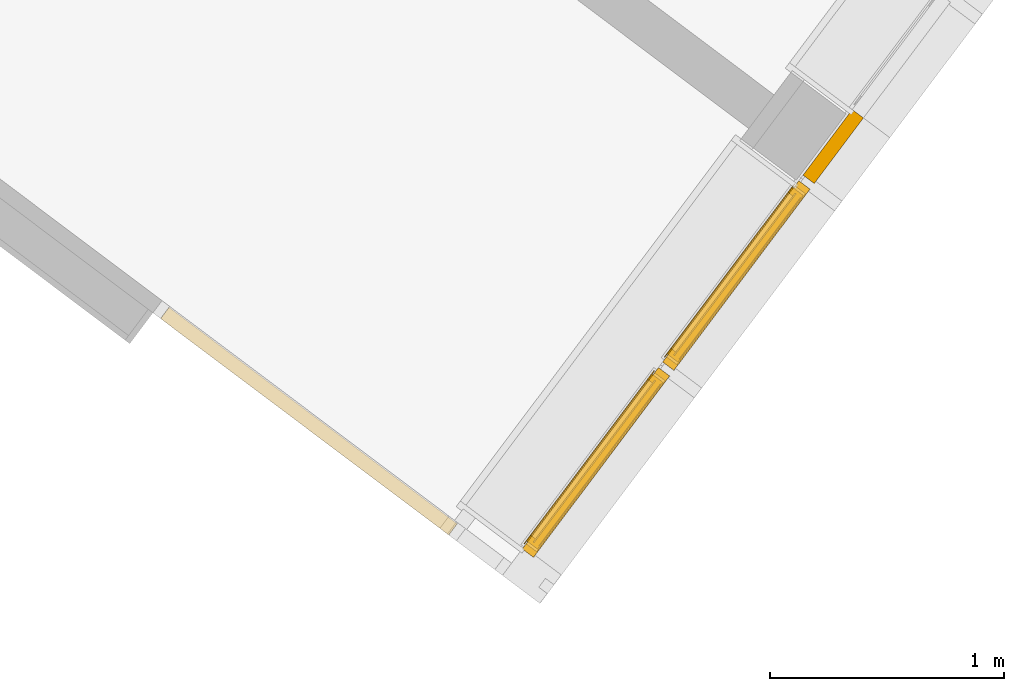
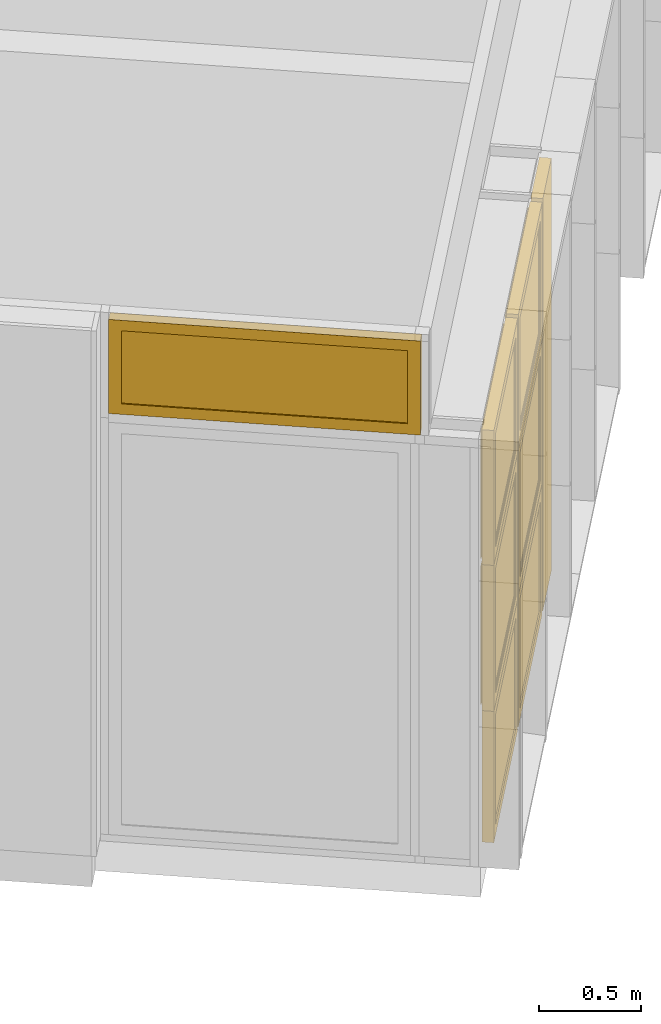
# One storey, part 156 of 243: 7 windows, 1 door, 2 elements without a shape of their own.
"""IFC2X3 building model written with IfcOpenShell, lengths in metres."""

import ifcopenshell
import ifcopenshell.guid

model = None  # the IFC model being written
_history = None  # IfcOwnerHistory: only IFC2X3 demands one
_inside = {}  # id of a spatial element -> (the spatial element, [elements in it])
_under = {}  # id of a project, library or spatial element -> (it, [spatial elements below it])
_declared = {}  # id of a project -> (the project, [libraries it declares])
_typed = {}  # id of a type object -> (the type object, [elements of that type])
_made_of = {}  # id of a material, layer set ... -> (it, [elements and type objects made of it])


def new_model(schema):
    """Start an empty IFC model of exactly this schema.

    Asked for "IFC4X3", IfcOpenShell would pick the latest addendum, in which some entities
    have other attributes; the version numbers below select the first issue.
    IFC2X3 requires an IfcOwnerHistory on every rooted entity: one is made here for all.
    """
    global model, _history
    if schema == "IFC4X3":
        model = ifcopenshell.file(schema_version=(4, 3, 0, 0))
    else:
        model = ifcopenshell.file(schema=schema)
    _inside.clear()
    _under.clear()
    _declared.clear()
    _typed.clear()
    _made_of.clear()
    _history = None
    if model.schema == "IFC2X3":
        org = make("IfcOrganization", Name="unknown")
        user = make(
            "IfcPersonAndOrganization",
            ThePerson=make("IfcPerson", FamilyName="unknown"),
            TheOrganization=org,
        )
        app = make(
            "IfcApplication",
            ApplicationDeveloper=org,
            Version="unknown",
            ApplicationFullName="unknown",
            ApplicationIdentifier="unknown",
        )
        _history = make(
            "IfcOwnerHistory",
            OwningUser=user,
            OwningApplication=app,
            ChangeAction="ADDED",
            CreationDate=0,
        )
    return model


def make(cls, **values):
    """One entity of the class cls with the attributes given. An attribute that is None is left unset."""
    return model.create_entity(
        cls, **{name: value for name, value in values.items() if value is not None}
    )


def entity(cls, *values):
    """Any entity or typed value of the class cls, its attributes in the order of the schema. None: left unset."""
    e = model.create_entity(cls)
    for i, value in enumerate(values):
        if value is not None:
            e[i] = value
    return e


def rooted(cls, **values):
    """An entity with a GlobalId (a new one), such as an element, a storey or a relation."""
    return make(cls, GlobalId=ifcopenshell.guid.new(), OwnerHistory=_history, **values)


def si_unit(unit_type, name, prefix=None):
    """IfcSIUnit, for example si_unit("LENGTHUNIT", "METRE", prefix="MILLI")."""
    return make("IfcSIUnit", UnitType=unit_type, Prefix=prefix, Name=name)


def converted_unit(unit_type, name, factor, base, dimensions=None, offset=None):
    """IfcConversionBasedUnit, such as the inch: factor (a typed value) times the base unit."""
    return make(
        "IfcConversionBasedUnit"
        if offset is None
        else "IfcConversionBasedUnitWithOffset",
        ConversionOffset=offset,
        Dimensions=None
        if dimensions is None
        else entity("IfcDimensionalExponents", *dimensions),
        UnitType=unit_type,
        Name=name,
        ConversionFactor=make(
            "IfcMeasureWithUnit", ValueComponent=factor, UnitComponent=base
        ),
    )


def derived_unit(unit_type, elements):
    """IfcDerivedUnit: a product of units, each with its exponent."""
    return make(
        "IfcDerivedUnit",
        Elements=[
            make("IfcDerivedUnitElement", Unit=unit, Exponent=power)
            for unit, power in elements
        ],
        UnitType=unit_type,
    )


def assignment(units):
    """IfcUnitAssignment: the units of a project."""
    return None if units is None else make("IfcUnitAssignment", Units=units)


def point(xyz):
    """IfcCartesianPoint."""
    return None if xyz is None else make("IfcCartesianPoint", Coordinates=xyz)


def direction(xyz):
    """IfcDirection."""
    return None if xyz is None else make("IfcDirection", DirectionRatios=xyz)


def frame(location, z_axis=None, x_axis=None):
    """IfcAxis2Placement3D, a coordinate frame: its origin and axes. An axis left out is left unset."""
    return make(
        "IfcAxis2Placement3D",
        Location=point(location),
        Axis=direction(z_axis),
        RefDirection=direction(x_axis),
    )


def frame_2d(location, x_axis=None):
    """IfcAxis2Placement2D, a coordinate frame in the plane: its origin and x axis."""
    return make(
        "IfcAxis2Placement2D", Location=point(location), RefDirection=direction(x_axis)
    )


def origin():
    """The frame at (0, 0, 0) with its axes left unset."""
    return frame((0.0, 0.0, 0.0))


def origin_2d_with_axis():
    """The frame at (0, 0) in the plane with the x axis (1, 0) written out."""
    return frame_2d((0.0, 0.0), x_axis=(1.0, 0.0))


def place(relative_to, where):
    """IfcLocalPlacement: puts the frame where relative to a parent placement (None: the world)."""
    return make(
        "IfcLocalPlacement", PlacementRelTo=relative_to, RelativePlacement=where
    )


def context(
    kind, dimensions, precision=None, world=None, true_north=None, identifier=None
):
    """IfcGeometricRepresentationContext, for example the 3D "Model" context."""
    return make(
        "IfcGeometricRepresentationContext",
        ContextIdentifier=identifier,
        ContextType=kind,
        CoordinateSpaceDimension=dimensions,
        Precision=precision,
        WorldCoordinateSystem=world,
        TrueNorth=true_north,
    )


def subcontext(parent, identifier, kind, view, scale=None):
    """IfcGeometricRepresentationSubContext, for example "Body" below "Model"."""
    return make(
        "IfcGeometricRepresentationSubContext",
        ContextIdentifier=identifier,
        ContextType=kind,
        ParentContext=parent,
        TargetScale=scale,
        TargetView=view,
    )


def project(units=None, contexts=None):
    """IfcProject with its units and contexts."""
    return rooted(
        "IfcProject",
        Name="project",
        RepresentationContexts=contexts,
        UnitsInContext=assignment(units),
    )


def spatial(cls, under=None, at=None, **own):
    """A site, building, storey or space (cls), placed at a placement, below another one or the project."""
    s = rooted(cls, ObjectPlacement=at, **own)
    if under is not None:
        _under.setdefault(under.id(), (under, []))[1].append(s)
    return s


def profile(cls, at=None, kind="AREA", **sizes):
    """A parametric profile (cls). Its sizes go by their IFC names, for example OverallWidth=200.0."""
    return make(cls, ProfileType=kind, Position=at, **sizes)


def rectangle(**sizes):
    """IfcRectangleProfileDef."""
    return profile("IfcRectangleProfileDef", **sizes)


def extrude(swept, where, along, depth):
    """IfcExtrudedAreaSolid: the profile swept, set in the frame where, extruded along a direction by depth."""
    return make(
        "IfcExtrudedAreaSolid",
        SweptArea=swept,
        Position=where,
        ExtrudedDirection=direction(along),
        Depth=depth,
    )


def faces_of(points, faces, orient=None, outer=None):
    """IfcFace entities. A face is a list of loops; a loop is a list of indices into points, from 0.

    orient and outer hold one flag for each loop. By default every Orientation is true, the
    first loop of a face is its IfcFaceOuterBound and the others are IfcFaceBound.
    """
    made = []
    for i, loops in enumerate(faces):
        bounds = []
        for j, loop in enumerate(loops):
            is_outer = j == 0 if outer is None else outer[i][j]
            bounds.append(
                make(
                    "IfcFaceOuterBound" if is_outer else "IfcFaceBound",
                    Bound=make("IfcPolyLoop", Polygon=[points[k] for k in loop]),
                    Orientation=True if orient is None else orient[i][j],
                )
            )
        made.append(make("IfcFace", Bounds=bounds))
    return made


def faceted_brep(points, faces, orient=None, outer=None, voids=None):
    """IfcFacetedBrep: a solid bounded by flat faces; with voids (closed shells), ...WithVoids."""
    shared = [point(p) for p in points]
    hull = make("IfcClosedShell", CfsFaces=faces_of(shared, faces, orient, outer))
    if voids is None:
        return make("IfcFacetedBrep", Outer=hull)
    return make(
        "IfcFacetedBrepWithVoids",
        Outer=hull,
        Voids=[
            make(cls, CfsFaces=faces_of(shared, fs, o, b)) for cls, fs, o, b in voids
        ],
    )


def shape(context_of_items, identifier, shape_type, items):
    """IfcShapeRepresentation: the items that make up one representation, for example the "Body"."""
    return make(
        "IfcShapeRepresentation",
        ContextOfItems=context_of_items,
        RepresentationIdentifier=identifier,
        RepresentationType=shape_type,
        Items=items,
    )


def source(mapping_origin, context_of_items, identifier, shape_type, items):
    """IfcRepresentationMap: a shape defined once, which mapped items show again and again."""
    return make(
        "IfcRepresentationMap",
        MappingOrigin=mapping_origin,
        MappedRepresentation=shape(context_of_items, identifier, shape_type, items),
    )


def transform(
    local_origin,
    x_axis=None,
    y_axis=None,
    z_axis=None,
    scale=None,
    scale2=None,
    scale3=None,
    uniform=True,
):
    """IfcCartesianTransformationOperator3D, or its non-uniform kind. x_axis, y_axis, z_axis: its Axis1, 2, 3."""
    if uniform:
        return make(
            "IfcCartesianTransformationOperator3D",
            Axis1=direction(x_axis),
            Axis2=direction(y_axis),
            LocalOrigin=point(local_origin),
            Scale=scale,
            Axis3=direction(z_axis),
        )
    return make(
        "IfcCartesianTransformationOperator3DnonUniform",
        Axis1=direction(x_axis),
        Axis2=direction(y_axis),
        LocalOrigin=point(local_origin),
        Scale=scale,
        Axis3=direction(z_axis),
        Scale2=scale2,
        Scale3=scale3,
    )


def mapped(mapping_source, mapping_target):
    """IfcMappedItem: shows the shape of a source again, moved by a transform."""
    return make(
        "IfcMappedItem", MappingSource=mapping_source, MappingTarget=mapping_target
    )


def material(Name=None, Category=None):
    """IfcMaterial."""
    return make("IfcMaterial", Name=Name, Category=Category)


def material_list(materials):
    """IfcMaterialList."""
    return make("IfcMaterialList", Materials=materials)


def made_of(thing, what):
    """Note that an element or type object is made of a material, layer set ...; save() writes the relation."""
    if what is not None:
        _made_of.setdefault(what.id(), (what, []))[1].append(thing)
    return thing


def type_object(cls, material=None, **own):
    """A type object (cls), such as IfcWallType, which elements share."""
    return made_of(rooted(cls, **own), material)


def type_shapes(of_type, sources):
    """Give a type object the sources (RepresentationMaps) that its elements show as mapped items."""
    of_type.RepresentationMaps = sources


def element(
    cls,
    number,
    at=None,
    inside=None,
    cuts=None,
    type_object=None,
    material=None,
    context=None,
    identifier="Body",
    shape_type=None,
    held_by="IfcProductDefinitionShape",
    body=None,
    shapes=None,
    **own,
):
    """One element of the class cls, such as IfcWall. Its Tag is "e" and its number.

    at: its placement. inside: the storey or other place that contains it. cuts: it is an
    opening in that element (IfcRelVoidsElement). A single representation is given by context,
    identifier, shape_type and body (its items); several are given by shapes. held_by: the class
    of the entity that holds the representations. save() writes the other relations.
    """
    e = rooted(cls, Tag="e%d" % number, ObjectPlacement=at, **own)
    if body is not None:
        shapes = [shape(context, identifier, shape_type, body)]
    if shapes is not None:
        e.Representation = make(held_by, Representations=shapes)
    if inside is not None:
        _inside.setdefault(inside.id(), (inside, []))[1].append(e)
    if cuts is not None:
        rooted(
            "IfcRelVoidsElement", RelatingBuildingElement=cuts, RelatedOpeningElement=e
        )
    if type_object is not None:
        _typed.setdefault(type_object.id(), (type_object, []))[1].append(e)
    return made_of(e, material)


def aggregate(whole, parts):
    """IfcRelAggregates: a whole, such as a stair, and the parts it consists of."""
    return rooted("IfcRelAggregates", RelatingObject=whole, RelatedObjects=parts)


def save(model, path):
    """Write the relations noted so far, then the file.

    IfcRelAggregates (storeys below a building ...), IfcRelContainedInSpatialStructure (elements
    in a storey), IfcRelDefinesByType, IfcRelAssociatesMaterial and IfcRelDeclares: one each for
    every whole, place, type object, material and project.
    """
    for whole, parts in _under.values():
        aggregate(whole, parts)
    for where, things in _inside.values():
        rooted(
            "IfcRelContainedInSpatialStructure",
            RelatedElements=things,
            RelatingStructure=where,
        )
    for kind, things in _typed.values():
        rooted("IfcRelDefinesByType", RelatedObjects=things, RelatingType=kind)
    for what, things in _made_of.values():
        rooted("IfcRelAssociatesMaterial", RelatedObjects=things, RelatingMaterial=what)
    for by, libraries in _declared.values():
        rooted("IfcRelDeclares", RelatingContext=by, RelatedDefinitions=libraries)
    model.write(path)


model = new_model("IFC2X3")

# Units and contexts
model_context = context("Model", 3, precision=1e-05, world=origin(), true_north=direction((6.123031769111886e-17, 1.0)))
body_context = subcontext(model_context, "Body", "Model", "MODEL_VIEW")
ifc_project = project(units=[si_unit("LENGTHUNIT", "METRE"), si_unit("AREAUNIT", "SQUARE_METRE"), si_unit("VOLUMEUNIT", "CUBIC_METRE"), converted_unit("PLANEANGLEUNIT", "DEGREE", entity("IfcRatioMeasure", 0.017453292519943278), si_unit("PLANEANGLEUNIT", "RADIAN"), dimensions=[0, 0, 0, 0, 0, 0, 0]), si_unit("MASSUNIT", "GRAM", prefix="KILO"), derived_unit("MASSDENSITYUNIT", [(si_unit("MASSUNIT", "GRAM", prefix="KILO"), 1), (si_unit("LENGTHUNIT", "METRE"), -3)]), derived_unit("IONCONCENTRATIONUNIT", [(si_unit("MASSUNIT", "GRAM", prefix="KILO"), 1), (si_unit("LENGTHUNIT", "METRE"), -3)]), derived_unit("MOMENTOFINERTIAUNIT", [(si_unit("LENGTHUNIT", "METRE"), 4)]), si_unit("TIMEUNIT", "SECOND"), si_unit("FREQUENCYUNIT", "HERTZ"), si_unit("THERMODYNAMICTEMPERATUREUNIT", "DEGREE_CELSIUS"), derived_unit("THERMALTRANSMITTANCEUNIT", [(si_unit("MASSUNIT", "GRAM", prefix="KILO"), 1), (si_unit("THERMODYNAMICTEMPERATUREUNIT", "KELVIN"), -1), (si_unit("TIMEUNIT", "SECOND"), -3)]), derived_unit("THERMALCONDUCTANCEUNIT", [(si_unit("MASSUNIT", "GRAM", prefix="KILO"), 1), (si_unit("THERMODYNAMICTEMPERATUREUNIT", "KELVIN"), -1), (si_unit("TIMEUNIT", "SECOND"), -3), (si_unit("LENGTHUNIT", "METRE"), 1)]), derived_unit("VOLUMETRICFLOWRATEUNIT", [(si_unit("LENGTHUNIT", "METRE"), 3), (si_unit("TIMEUNIT", "SECOND"), -1)]), derived_unit("MASSFLOWRATEUNIT", [(si_unit("MASSUNIT", "GRAM", prefix="KILO"), 1), (si_unit("TIMEUNIT", "SECOND"), -1)]), derived_unit("ROTATIONALFREQUENCYUNIT", [(si_unit("TIMEUNIT", "SECOND"), -1)]), si_unit("ELECTRICCURRENTUNIT", "AMPERE"), si_unit("ELECTRICVOLTAGEUNIT", "VOLT"), si_unit("POWERUNIT", "WATT"), si_unit("FORCEUNIT", "NEWTON", prefix="KILO"), si_unit("ILLUMINANCEUNIT", "LUX"), si_unit("LUMINOUSFLUXUNIT", "LUMEN"), si_unit("LUMINOUSINTENSITYUNIT", "CANDELA"), derived_unit("USERDEFINED", [(si_unit("MASSUNIT", "GRAM", prefix="KILO"), -1), (si_unit("LENGTHUNIT", "METRE"), -2), (si_unit("TIMEUNIT", "SECOND"), 3), (si_unit("LUMINOUSFLUXUNIT", "LUMEN"), 1)]), derived_unit("USERDEFINED", [(si_unit("MASSUNIT", "GRAM", prefix="KILO"), 1), (si_unit("TIMEUNIT", "SECOND"), -3), (si_unit("LENGTHUNIT", "METRE"), 3), (si_unit("ELECTRICCURRENTUNIT", "AMPERE"), -2)]), derived_unit("SOUNDPOWERUNIT", [(si_unit("MASSUNIT", "GRAM", prefix="KILO"), 1), (si_unit("TIMEUNIT", "SECOND"), -3), (si_unit("LENGTHUNIT", "METRE"), 2)]), derived_unit("SOUNDPRESSUREUNIT", [(si_unit("MASSUNIT", "GRAM", prefix="KILO"), 1), (si_unit("LENGTHUNIT", "METRE"), -1), (si_unit("TIMEUNIT", "SECOND"), -2)]), derived_unit("LINEARVELOCITYUNIT", [(si_unit("LENGTHUNIT", "METRE"), 1), (si_unit("TIMEUNIT", "SECOND"), -1)]), si_unit("PRESSUREUNIT", "PASCAL"), derived_unit("USERDEFINED", [(si_unit("MASSUNIT", "GRAM", prefix="KILO"), 1), (si_unit("LENGTHUNIT", "METRE"), -2), (si_unit("TIMEUNIT", "SECOND"), -2)]), derived_unit("LINEARFORCEUNIT", [(si_unit("MASSUNIT", "GRAM", prefix="KILO"), 1), (si_unit("TIMEUNIT", "SECOND"), -2)]), derived_unit("PLANARFORCEUNIT", [(si_unit("MASSUNIT", "GRAM", prefix="KILO"), 1), (si_unit("LENGTHUNIT", "METRE"), -1), (si_unit("TIMEUNIT", "SECOND"), -2)]), derived_unit("SPECIFICHEATCAPACITYUNIT", [(si_unit("THERMODYNAMICTEMPERATUREUNIT", "KELVIN"), -1), (si_unit("LENGTHUNIT", "METRE"), 2), (si_unit("TIMEUNIT", "SECOND"), -2)]), derived_unit("HEATINGVALUEUNIT", [(si_unit("LENGTHUNIT", "METRE"), 2), (si_unit("TIMEUNIT", "SECOND"), -2)]), derived_unit("VAPORPERMEABILITYUNIT", [(si_unit("LENGTHUNIT", "METRE"), -1), (si_unit("TIMEUNIT", "SECOND"), 1)]), derived_unit("DYNAMICVISCOSITYUNIT", [(si_unit("MASSUNIT", "GRAM", prefix="KILO"), 1), (si_unit("TIMEUNIT", "SECOND"), -1), (si_unit("LENGTHUNIT", "METRE"), -1)]), derived_unit("THERMALEXPANSIONCOEFFICIENTUNIT", [(si_unit("THERMODYNAMICTEMPERATUREUNIT", "KELVIN"), -1)]), derived_unit("MODULUSOFELASTICITYUNIT", [(si_unit("MASSUNIT", "GRAM", prefix="KILO"), 1), (si_unit("LENGTHUNIT", "METRE"), -1), (si_unit("TIMEUNIT", "SECOND"), -2)]), derived_unit("ISOTHERMALMOISTURECAPACITYUNIT", [(si_unit("LENGTHUNIT", "METRE"), 3), (si_unit("MASSUNIT", "GRAM", prefix="KILO"), -1)]), derived_unit("MOISTUREDIFFUSIVITYUNIT", [(si_unit("TIMEUNIT", "SECOND"), -1), (si_unit("LENGTHUNIT", "METRE"), 2)])], contexts=[model_context])

# Site, building, storey
site_placement = place(None, frame((0.0, 0.0, 235.0), z_axis=(0.0, 0.0, 1.0), x_axis=(-0.7996477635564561, 0.6004693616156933, 0.0)))
site = spatial("IfcSite", under=ifc_project, at=site_placement, Name="Default", CompositionType="ELEMENT")
building_placement = place(site_placement, origin())
building = spatial("IfcBuilding", under=site, at=building_placement, CompositionType="ELEMENT")
storey_placement = place(building_placement, origin())
storey = spatial("IfcBuildingStorey", under=building, at=storey_placement, Name="P0- Escola", CompositionType="ELEMENT", Elevation=0.0)

# Curtain wall, windows
curtain_wall_type_1 = type_object("IfcCurtainWallType", Name="Muro cortina:MC- EXT- MC2", PredefinedType="NOTDEFINED")
curtain_wall_1_placement = place(storey_placement, origin())
curtain_wall_1 = element("IfcCurtainWall", 1, at=curtain_wall_1_placement, inside=storey, type_object=curtain_wall_type_1, Name="Muro cortina:MC- EXT- MC2", ObjectType="Muro cortina:MC- EXT- MC2")
ifc_material_1 = material(Name="_Vidre")
ifc_material_2 = material(Name="_Alumini- T1- Perfil")
ifc_material_list_1 = material_list([ifc_material_1, ifc_material_2])
window_style_1 = type_object("IfcWindowStyle", Name="MC- Alu- Conjunt vidre fix- 62x60 cm:MC- Alu- Conjunt vidre fix- 62x60 cm", ConstructionType="NOTDEFINED", OperationType="NOTDEFINED", ParameterTakesPrecedence=False, Sizeable=False, material=ifc_material_list_1)
shared_shape_1 = source(origin(), body_context, "Body", "Brep", [
    faceted_brep([(0.4361932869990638, -0.007600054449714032, 0.048806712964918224), (0.4361932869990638, -0.03160022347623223, 0.048806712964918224), (-0.4361932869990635, -0.03160022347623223, 0.048806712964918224), (-0.4361932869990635, -0.007600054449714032, 0.048806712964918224), (0.4361932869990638, -0.007600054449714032, 0.7387000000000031), (-0.4361932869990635, -0.007600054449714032, 0.7387000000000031), (-0.4361932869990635, -0.03160022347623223, 0.7387000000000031), (0.4361932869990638, -0.03160022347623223, 0.7387000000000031)], [[[0, 1, 2, 3]], [[4, 0, 3, 5]], [[5, 3, 2, 6]], [[6, 2, 1, 7]], [[7, 1, 0, 4]], [[4, 5, 6, 7]]]),
    faceted_brep([(0.48499999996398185, -0.05999999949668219, 0.7877000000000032), (0.48499999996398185, -0.05999999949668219, 0.0), (0.48499999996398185, 0.0, 0.0), (0.48499999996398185, 0.0, 0.787700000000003), (-0.48499999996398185, 0.0, 0.7877000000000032), (-0.48499999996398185, 0.0, 0.0), (0.4221931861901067, 0.0, 0.7248931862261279), (-0.42219318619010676, 0.0, 0.724893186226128), (-0.4221931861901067, 0.0, 0.0628068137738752), (0.4221931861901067, 0.0, 0.06280681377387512), (-0.48499999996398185, -0.05999999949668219, 0.0), (-0.48499999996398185, -0.05999999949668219, 0.7877000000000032), (-0.42219603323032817, -0.05999999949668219, 0.7248960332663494), (0.42219603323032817, -0.05999999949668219, 0.7248960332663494), (0.42219603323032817, -0.05999999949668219, 0.0628039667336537), (-0.42219603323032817, -0.05999999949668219, 0.0628039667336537), (0.4221960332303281, -0.03160022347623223, 0.7248960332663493), (0.42219603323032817, -0.03160022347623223, 0.0628039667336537), (-0.42219603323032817, -0.03160022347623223, 0.06280396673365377), (-0.42219603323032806, -0.03160022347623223, 0.7248960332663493), (-0.43619328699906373, -0.03160022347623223, 0.738893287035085), (0.43619328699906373, -0.03160022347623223, 0.738893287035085), (0.43619328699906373, -0.03160022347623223, 0.048806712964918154), (-0.43619328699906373, -0.03160022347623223, 0.04880671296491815), (0.43619328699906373, -0.007600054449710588, 0.738893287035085), (0.43619328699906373, -0.007600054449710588, 0.04880671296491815), (-0.43619328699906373, -0.007600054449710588, 0.048806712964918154), (-0.43619328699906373, -0.007600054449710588, 0.738893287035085), (-0.42219318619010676, -0.007600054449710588, 0.724893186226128), (0.42219318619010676, -0.007600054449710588, 0.724893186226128), (0.42219318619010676, -0.007600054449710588, 0.06280681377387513), (-0.42219318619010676, -0.007600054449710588, 0.06280681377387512)], [[[0, 1, 2, 3]], [[4, 3, 2, 5], [6, 7, 8, 9]], [[1, 10, 5, 2]], [[0, 11, 10, 1], [12, 13, 14, 15]], [[16, 17, 14, 13]], [[17, 18, 15, 14]], [[16, 19, 18, 17], [20, 21, 22, 23]], [[24, 25, 22, 21]], [[25, 26, 23, 22]], [[24, 27, 26, 25], [28, 29, 30, 31]], [[6, 9, 30, 29]], [[9, 8, 31, 30]], [[10, 11, 4, 5]], [[18, 19, 12, 15]], [[26, 27, 20, 23]], [[8, 7, 28, 31]], [[11, 0, 3, 4]], [[19, 16, 13, 12]], [[27, 24, 21, 20]], [[7, 6, 29, 28]]], outer=[[True], [True, False], [True], [True, False], [True], [True], [False, True], [True], [True], [True, False], [True], [True], [True], [True], [True], [True], [True], [True], [True], [True]]),
])
type_shapes(window_style_1, [shared_shape_1])
window_1_placement = place(curtain_wall_1_placement, frame((28.345147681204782, -20.91519175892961, 0.03229999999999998), z_axis=(0.0, 0.0, 1.0), x_axis=(0.0, 1.0, 0.0)))
window_1 = element("IfcWindow", 2, at=window_1_placement, type_object=window_style_1, material=ifc_material_list_1, Name="MC- Alu- Conjunt vidre fix- 62x60 cm:MC- Alu- Conjunt vidre fix- 62x60 cm", ObjectType="MC- Alu- Conjunt vidre fix- 62x60 cm:MC- Alu- Conjunt vidre fix- 62x60 cm", OverallHeight=0.7877000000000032, OverallWidth=0.9699999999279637, context=body_context, shape_type="MappedRepresentation", body=[
    mapped(shared_shape_1, transform((0.0, 0.0, 0.0), scale=1.0)),
])
window_2_placement = place(curtain_wall_1_placement, frame((28.34514768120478, -21.91519175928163, 0.03229999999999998), z_axis=(0.0, 0.0, 1.0), x_axis=(0.0, 1.0, 0.0)))
window_2 = element("IfcWindow", 3, at=window_2_placement, type_object=window_style_1, material=ifc_material_list_1, Name="MC- Alu- Conjunt vidre fix- 62x60 cm:MC- Alu- Conjunt vidre fix- 62x60 cm", ObjectType="MC- Alu- Conjunt vidre fix- 62x60 cm:MC- Alu- Conjunt vidre fix- 62x60 cm", OverallHeight=0.7877000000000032, OverallWidth=0.9699999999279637, context=body_context, shape_type="MappedRepresentation", body=[
    mapped(shared_shape_1, transform((0.0, 0.0, 0.0), scale=1.0)),
])
window_style_2 = type_object("IfcWindowStyle", Name="MC- Alu- Conjunt finestra basculant- 68x68 cm:MC- Alu- Conjunt finestra basculant- 68x68 cm", ConstructionType="NOTDEFINED", OperationType="NOTDEFINED", ParameterTakesPrecedence=False, Sizeable=False, material=ifc_material_list_1)
shared_shape_2 = source(origin(), body_context, "Body", "Brep", [
    faceted_brep([(0.43291170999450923, -0.03559830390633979, 0.051999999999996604), (-0.43291170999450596, -0.03559830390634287, 0.051999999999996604), (-0.43291170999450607, -0.011598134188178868, 0.051999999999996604), (0.43291170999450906, -0.011598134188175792, 0.051999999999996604), (0.43291170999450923, -0.035598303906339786, 0.8228027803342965), (0.43291170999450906, -0.011598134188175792, 0.8228027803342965), (-0.43291170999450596, -0.011598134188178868, 0.8228027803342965), (-0.43291170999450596, -0.03559830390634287, 0.8228027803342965)], [[[0, 1, 2, 3]], [[4, 0, 3, 5]], [[5, 3, 2, 6]], [[6, 2, 1, 7]], [[7, 1, 0, 4]], [[4, 5, 6, 7]]]),
    faceted_brep([(-0.4172108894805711, -0.009998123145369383, 0.8071019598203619), (-0.4172108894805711, -0.00999812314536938, 0.06789804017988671), (-0.4172108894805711, -0.007998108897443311, 0.06789804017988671), (-0.4172108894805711, -0.007998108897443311, 0.8071019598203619), (-0.44610892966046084, -0.007998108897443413, 0.8360000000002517), (0.44610892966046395, -0.007998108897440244, 0.8360000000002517), (0.44610892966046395, -0.007998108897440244, 0.03899999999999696), (-0.44610892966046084, -0.007998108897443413, 0.03899999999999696), (0.4172108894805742, -0.007998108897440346, 0.8071019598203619), (0.4172108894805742, -0.007998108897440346, 0.06789804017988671), (0.4172108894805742, -0.009998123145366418, 0.06789804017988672), (0.4172108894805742, -0.009998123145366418, 0.8071019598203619), (0.4329117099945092, -0.00999812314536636, 0.8228027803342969), (-0.43291170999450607, -0.009998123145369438, 0.8228027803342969), (-0.43291170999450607, -0.009998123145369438, 0.05219721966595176), (0.4329117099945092, -0.00999812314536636, 0.052197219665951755), (-0.4329117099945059, -0.04079986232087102, 0.8228027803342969), (-0.4329117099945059, -0.04079986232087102, 0.052197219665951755), (0.4329117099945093, -0.04079986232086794, 0.05219721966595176), (0.4329117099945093, -0.04079986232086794, 0.8228027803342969), (0.41721088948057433, -0.040799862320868, 0.8071019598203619), (-0.41721088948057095, -0.04079986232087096, 0.8071019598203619), (-0.41721088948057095, -0.04079986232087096, 0.06789804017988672), (0.41721088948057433, -0.040799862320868, 0.06789804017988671), (-0.4172108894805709, -0.06800005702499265, 0.8071019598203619), (-0.4172108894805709, -0.06800005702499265, 0.06789804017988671), (0.4172108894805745, -0.0680000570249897, 0.06789804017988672), (0.4172108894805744, -0.0680000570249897, 0.8071019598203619), (0.4636128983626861, -0.06800005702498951, 0.8535039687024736), (-0.4636128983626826, -0.06800005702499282, 0.8535039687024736), (-0.4636128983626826, -0.06800005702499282, 0.021496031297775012), (0.4636128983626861, -0.06800005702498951, 0.021496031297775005), (-0.4636128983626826, -0.0645000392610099, 0.8535039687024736), (-0.4636128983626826, -0.06450003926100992, 0.021496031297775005), (0.4636128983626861, -0.06450003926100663, 0.021496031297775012), (0.4636128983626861, -0.06450003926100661, 0.8535039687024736), (0.44610892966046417, -0.06450003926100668, 0.8360000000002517), (-0.4461089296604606, -0.06450003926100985, 0.8360000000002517), (-0.4461089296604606, -0.06450003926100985, 0.03899999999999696), (0.44610892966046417, -0.06450003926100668, 0.038999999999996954)], [[[0, 1, 2, 3]], [[4, 5, 6, 7], [8, 3, 2, 9]], [[1, 10, 9, 2]], [[0, 11, 10, 1], [12, 13, 14, 15]], [[16, 17, 14, 13]], [[17, 18, 15, 14]], [[16, 19, 18, 17], [20, 21, 22, 23]], [[24, 25, 22, 21]], [[25, 26, 23, 22]], [[24, 27, 26, 25], [28, 29, 30, 31]], [[32, 33, 30, 29]], [[33, 34, 31, 30]], [[32, 35, 34, 33], [36, 37, 38, 39]], [[4, 7, 38, 37]], [[7, 6, 39, 38]], [[10, 11, 8, 9]], [[18, 19, 12, 15]], [[26, 27, 20, 23]], [[34, 35, 28, 31]], [[6, 5, 36, 39]], [[11, 0, 3, 8]], [[19, 16, 13, 12]], [[27, 24, 21, 20]], [[35, 32, 29, 28]], [[5, 4, 37, 36]]], outer=[[True], [True, False], [True], [False, True], [True], [True], [True, False], [True], [True], [False, True], [True], [True], [True, False], [True], [True], [True], [True], [True], [True], [True], [True], [True], [True], [True], [True]]),
    faceted_brep([(0.42219318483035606, 0.0, 0.8121931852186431), (0.42219318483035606, 0.0, 0.06280681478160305), (0.42219318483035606, -0.0040000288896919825, 0.06280681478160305), (0.42219318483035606, -0.0040000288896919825, 0.8121931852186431), (-0.42219318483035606, -0.0040000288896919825, 0.8121931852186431), (-0.42219318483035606, -0.0040000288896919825, 0.06280681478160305), (0.4575998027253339, -0.0040000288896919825, 0.8475998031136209), (-0.4575998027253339, -0.0040000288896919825, 0.8475998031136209), (-0.4575998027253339, -0.0040000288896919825, 0.027400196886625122), (0.4575998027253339, -0.0040000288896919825, 0.02740019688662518), (-0.42219318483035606, 0.0, 0.06280681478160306), (-0.42219318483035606, 0.0, 0.8121931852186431), (-0.48499999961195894, 0.0, 0.875000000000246), (0.48499999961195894, 0.0, 0.875000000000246), (0.48499999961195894, 0.0, 0.0), (-0.48499999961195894, 0.0, 0.0), (0.48499999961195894, -0.05999999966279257, 0.875000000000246), (0.48499999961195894, -0.05999999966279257, 0.0), (-0.48499999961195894, -0.05999999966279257, 0.0), (-0.48499999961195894, -0.05999999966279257, 0.875000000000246), (-0.4575998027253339, -0.05999999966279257, 0.8475998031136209), (0.4575998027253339, -0.05999999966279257, 0.8475998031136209), (0.4575998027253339, -0.05999999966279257, 0.027400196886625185), (-0.4575998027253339, -0.05999999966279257, 0.02740019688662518)], [[[0, 1, 2, 3]], [[4, 3, 2, 5], [6, 7, 8, 9]], [[1, 10, 5, 2]], [[0, 11, 10, 1], [12, 13, 14, 15]], [[16, 17, 14, 13]], [[17, 18, 15, 14]], [[16, 19, 18, 17], [20, 21, 22, 23]], [[6, 9, 22, 21]], [[9, 8, 23, 22]], [[10, 11, 4, 5]], [[18, 19, 12, 15]], [[8, 7, 20, 23]], [[11, 0, 3, 4]], [[19, 16, 13, 12]], [[7, 6, 21, 20]]], outer=[[True], [False, True], [True], [False, True], [True], [True], [True, False], [True], [True], [True], [True], [True], [True], [True], [True]]),
])
type_shapes(window_style_2, [shared_shape_2])
window_3_placement = place(curtain_wall_1_placement, frame((28.345147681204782, -20.91519175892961, 0.8200000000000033), z_axis=(0.0, 0.0, 1.0), x_axis=(0.0, 1.0, 0.0)))
window_3 = element("IfcWindow", 4, at=window_3_placement, type_object=window_style_2, material=ifc_material_list_1, Name="MC- Alu- Conjunt finestra basculant- 68x68 cm:MC- Alu- Conjunt finestra basculant- 68x68 cm", ObjectType="MC- Alu- Conjunt finestra basculant- 68x68 cm:MC- Alu- Conjunt finestra basculant- 68x68 cm", OverallHeight=0.8750000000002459, OverallWidth=0.9699999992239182, context=body_context, shape_type="MappedRepresentation", body=[
    mapped(shared_shape_2, transform((0.0, 0.0, 0.0), scale=1.0)),
])
window_4_placement = place(curtain_wall_1_placement, frame((28.34514768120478, -21.91519175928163, 0.8200000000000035), z_axis=(0.0, 0.0, 1.0), x_axis=(0.0, 1.0, 0.0)))
window_4 = element("IfcWindow", 5, at=window_4_placement, type_object=window_style_2, material=ifc_material_list_1, Name="MC- Alu- Conjunt finestra basculant- 68x68 cm:MC- Alu- Conjunt finestra basculant- 68x68 cm", ObjectType="MC- Alu- Conjunt finestra basculant- 68x68 cm:MC- Alu- Conjunt finestra basculant- 68x68 cm", OverallHeight=0.8750000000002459, OverallWidth=0.9699999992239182, context=body_context, shape_type="MappedRepresentation", body=[
    mapped(shared_shape_2, transform((0.0, 0.0, 0.0), scale=1.0)),
])
window_style_3 = type_object("IfcWindowStyle", Name="MC- Alu- Conjunt finestra basculant- 68x68 cm:MC- Alu- Conjunt finestra basculant- 68x68 cm", ConstructionType="NOTDEFINED", OperationType="NOTDEFINED", ParameterTakesPrecedence=False, Sizeable=False, material=ifc_material_list_1)
shared_shape_3 = source(origin(), body_context, "Body", "Brep", [
    faceted_brep([(0.432911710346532, -0.03559830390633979, 0.051999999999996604), (-0.43291171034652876, -0.03559830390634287, 0.051999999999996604), (-0.4329117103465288, -0.011598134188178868, 0.051999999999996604), (0.43291171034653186, -0.011598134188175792, 0.051999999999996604), (0.432911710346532, -0.035598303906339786, 0.7565527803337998), (0.43291171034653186, -0.011598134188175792, 0.7565527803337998), (-0.43291171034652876, -0.011598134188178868, 0.7565527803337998), (-0.43291171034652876, -0.03559830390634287, 0.7565527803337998)], [[[0, 1, 2, 3]], [[4, 0, 3, 5]], [[5, 3, 2, 6]], [[6, 2, 1, 7]], [[7, 1, 0, 4]], [[4, 5, 6, 7]]]),
    faceted_brep([(-0.41721088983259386, -0.009998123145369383, 0.7408519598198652), (-0.41721088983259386, -0.00999812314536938, 0.06789804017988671), (-0.41721088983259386, -0.007998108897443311, 0.06789804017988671), (-0.41721088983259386, -0.007998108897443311, 0.7408519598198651), (-0.4461089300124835, -0.007998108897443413, 0.7697499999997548), (0.44610893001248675, -0.007998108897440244, 0.7697499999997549), (0.4461089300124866, -0.007998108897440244, 0.03899999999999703), (-0.44610893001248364, -0.007998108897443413, 0.03899999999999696), (0.41721088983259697, -0.007998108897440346, 0.7408519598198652), (0.41721088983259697, -0.007998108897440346, 0.06789804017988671), (0.41721088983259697, -0.009998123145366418, 0.06789804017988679), (0.41721088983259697, -0.009998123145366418, 0.7408519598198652), (0.4329117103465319, -0.00999812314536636, 0.7565527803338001), (-0.4329117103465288, -0.009998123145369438, 0.7565527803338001), (-0.4329117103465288, -0.009998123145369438, 0.05219721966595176), (0.4329117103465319, -0.00999812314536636, 0.052197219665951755), (-0.4329117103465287, -0.04079986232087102, 0.7565527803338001), (-0.4329117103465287, -0.04079986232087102, 0.052197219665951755), (0.4329117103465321, -0.04079986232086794, 0.05219721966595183), (0.4329117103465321, -0.04079986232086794, 0.7565527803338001), (0.41721088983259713, -0.040799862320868, 0.7408519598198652), (-0.41721088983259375, -0.04079986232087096, 0.7408519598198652), (-0.41721088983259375, -0.04079986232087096, 0.06789804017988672), (0.41721088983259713, -0.040799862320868, 0.06789804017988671), (-0.4172108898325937, -0.06800005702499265, 0.7408519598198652), (-0.4172108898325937, -0.06800005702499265, 0.06789804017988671), (0.41721088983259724, -0.0680000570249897, 0.06789804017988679), (0.4172108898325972, -0.0680000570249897, 0.7408519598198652), (0.4636128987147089, -0.06800005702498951, 0.7872539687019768), (-0.46361289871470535, -0.06800005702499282, 0.7872539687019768), (-0.46361289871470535, -0.06800005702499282, 0.021496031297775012), (0.4636128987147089, -0.06800005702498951, 0.021496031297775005), (-0.46361289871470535, -0.0645000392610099, 0.7872539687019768), (-0.46361289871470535, -0.06450003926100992, 0.021496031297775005), (0.4636128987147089, -0.06450003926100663, 0.02149603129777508), (0.4636128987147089, -0.06450003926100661, 0.7872539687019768), (0.4461089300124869, -0.06450003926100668, 0.7697499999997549), (-0.4461089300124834, -0.06450003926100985, 0.7697499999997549), (-0.4461089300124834, -0.06450003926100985, 0.03899999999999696), (0.4461089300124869, -0.06450003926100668, 0.038999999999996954)], [[[0, 1, 2, 3]], [[4, 5, 6, 7], [8, 3, 2, 9]], [[1, 10, 9, 2]], [[0, 11, 10, 1], [12, 13, 14, 15]], [[16, 17, 14, 13]], [[17, 18, 15, 14]], [[16, 19, 18, 17], [20, 21, 22, 23]], [[24, 25, 22, 21]], [[25, 26, 23, 22]], [[24, 27, 26, 25], [28, 29, 30, 31]], [[32, 33, 30, 29]], [[33, 34, 31, 30]], [[32, 35, 34, 33], [36, 37, 38, 39]], [[4, 7, 38, 37]], [[7, 6, 39, 38]], [[10, 11, 8, 9]], [[18, 19, 12, 15]], [[26, 27, 20, 23]], [[34, 35, 28, 31]], [[6, 5, 36, 39]], [[11, 0, 3, 8]], [[19, 16, 13, 12]], [[27, 24, 21, 20]], [[35, 32, 29, 28]], [[5, 4, 37, 36]]], outer=[[True], [True, False], [True], [False, True], [True], [True], [True, False], [True], [True], [False, True], [True], [True], [True, False], [True], [True], [True], [True], [True], [True], [True], [True], [True], [True], [True], [True]]),
    faceted_brep([(0.4221931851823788, 0.0, 0.7459431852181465), (0.4221931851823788, 0.0, 0.06280681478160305), (0.4221931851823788, -0.0040000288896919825, 0.06280681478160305), (0.4221931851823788, -0.0040000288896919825, 0.7459431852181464), (-0.4221931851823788, -0.0040000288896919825, 0.7459431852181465), (-0.4221931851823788, -0.0040000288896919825, 0.06280681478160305), (0.4575998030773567, -0.0040000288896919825, 0.7813498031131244), (-0.4575998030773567, -0.0040000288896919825, 0.7813498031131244), (-0.4575998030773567, -0.0040000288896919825, 0.027400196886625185), (0.4575998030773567, -0.0040000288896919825, 0.02740019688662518), (-0.4221931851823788, 0.0, 0.06280681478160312), (-0.4221931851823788, 0.0, 0.7459431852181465), (-0.48499999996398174, 0.0, 0.8087499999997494), (0.48499999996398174, 0.0, 0.8087499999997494), (0.48499999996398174, 0.0, 0.0), (-0.48499999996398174, 0.0, 0.0), (0.48499999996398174, -0.05999999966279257, 0.8087499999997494), (0.48499999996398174, -0.05999999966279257, 0.0), (-0.48499999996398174, -0.05999999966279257, 0.0), (-0.48499999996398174, -0.05999999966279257, 0.8087499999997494), (-0.4575998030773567, -0.05999999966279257, 0.7813498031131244), (0.4575998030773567, -0.05999999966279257, 0.7813498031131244), (0.4575998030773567, -0.05999999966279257, 0.027400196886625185), (-0.4575998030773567, -0.05999999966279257, 0.02740019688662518)], [[[0, 1, 2, 3]], [[4, 3, 2, 5], [6, 7, 8, 9]], [[1, 10, 5, 2]], [[0, 11, 10, 1], [12, 13, 14, 15]], [[16, 17, 14, 13]], [[17, 18, 15, 14]], [[16, 19, 18, 17], [20, 21, 22, 23]], [[6, 9, 22, 21]], [[9, 8, 23, 22]], [[10, 11, 4, 5]], [[18, 19, 12, 15]], [[8, 7, 20, 23]], [[11, 0, 3, 4]], [[19, 16, 13, 12]], [[7, 6, 21, 20]]], outer=[[True], [False, True], [True], [False, True], [True], [True], [True, False], [True], [True], [True], [True], [True], [True], [True], [True]]),
])
type_shapes(window_style_3, [shared_shape_3])
window_5_placement = place(curtain_wall_1_placement, frame((28.345147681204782, -20.91519175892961, 1.6950000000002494), z_axis=(0.0, 0.0, 1.0), x_axis=(0.0, 1.0, 0.0)))
window_5 = element("IfcWindow", 6, at=window_5_placement, type_object=window_style_3, material=ifc_material_list_1, Name="MC- Alu- Conjunt finestra basculant- 68x68 cm:MC- Alu- Conjunt finestra basculant- 68x68 cm", ObjectType="MC- Alu- Conjunt finestra basculant- 68x68 cm:MC- Alu- Conjunt finestra basculant- 68x68 cm", OverallHeight=0.8087499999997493, OverallWidth=0.9699999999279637, context=body_context, shape_type="MappedRepresentation", body=[
    mapped(shared_shape_3, transform((0.0, 0.0, 0.0), scale=1.0)),
])
window_6_placement = place(curtain_wall_1_placement, frame((28.34514768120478, -21.915191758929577, 1.6950000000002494), z_axis=(0.0, 0.0, 1.0), x_axis=(0.0, 1.0, 0.0)))
window_6 = element("IfcWindow", 7, at=window_6_placement, type_object=window_style_3, material=ifc_material_list_1, Name="MC- Alu- Conjunt finestra basculant- 68x68 cm:MC- Alu- Conjunt finestra basculant- 68x68 cm", ObjectType="MC- Alu- Conjunt finestra basculant- 68x68 cm:MC- Alu- Conjunt finestra basculant- 68x68 cm", OverallHeight=0.8087499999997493, OverallWidth=0.9699999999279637, context=body_context, shape_type="MappedRepresentation", body=[
    mapped(shared_shape_3, transform((0.0, 0.0, 0.0), scale=1.0)),
])

# Curtain wall, window
curtain_wall_type_2 = type_object("IfcCurtainWallType", Name="Muro cortina:MC- EXT- AL1- Fa porxo", PredefinedType="NOTDEFINED")
curtain_wall_2_placement = place(storey_placement, origin())
curtain_wall_2 = element("IfcCurtainWall", 8, at=curtain_wall_2_placement, inside=storey, type_object=curtain_wall_type_2, Name="Muro cortina:MC- EXT- AL1- Fa porxo", ObjectType="Muro cortina:MC- EXT- AL1- Fa porxo")
window_style_4 = type_object("IfcWindowStyle", Name="MC- Alu- Conjunt vidre fix- 62x60 cm:MC- Alu- Conjunt vidre fix- 62x60 cm", ConstructionType="NOTDEFINED", OperationType="NOTDEFINED", ParameterTakesPrecedence=False, Sizeable=False, material=ifc_material_list_1)
shared_shape_4 = source(origin(), body_context, "Body", "Brep", [
    faceted_brep([(-0.7221079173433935, -0.007600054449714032, 0.048806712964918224), (0.7221079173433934, -0.007600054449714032, 0.048806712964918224), (0.7221079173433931, -0.03160022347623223, 0.048806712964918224), (-0.7221079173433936, -0.03160022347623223, 0.048806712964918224), (-0.7221079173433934, -0.007600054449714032, 0.5147500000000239), (0.7221079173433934, -0.007600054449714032, 0.5147500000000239), (0.7221079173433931, -0.03160022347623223, 0.5147500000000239), (-0.7221079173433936, -0.03160022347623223, 0.5147500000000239)], [[[0, 1, 2, 3]], [[4, 5, 1, 0]], [[5, 6, 2, 1]], [[6, 7, 3, 2]], [[7, 4, 0, 3]], [[4, 7, 6, 5]]]),
    faceted_brep([(-0.7709146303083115, -0.05999999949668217, 0.563750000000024), (-0.7709146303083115, 0.0, 0.563750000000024), (-0.7709146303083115, 0.0, 0.0), (-0.7709146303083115, -0.05999999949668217, 0.0), (-0.7081078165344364, 0.0, 0.5009431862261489), (-0.7081078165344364, 0.0, 0.06280681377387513), (0.7081078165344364, 0.0, 0.06280681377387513), (0.7081078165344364, 0.0, 0.5009431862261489), (0.7709146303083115, 0.0, 0.563750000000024), (0.7709146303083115, 0.0, 0.0), (0.7709146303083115, -0.05999999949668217, 0.0), (0.7709146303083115, -0.05999999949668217, 0.563750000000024), (0.7081106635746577, -0.05999999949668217, 0.5009460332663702), (0.7081106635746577, -0.05999999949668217, 0.06280396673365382), (-0.7081106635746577, -0.05999999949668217, 0.06280396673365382), (-0.7081106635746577, -0.05999999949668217, 0.5009460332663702), (-0.7081106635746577, -0.03160022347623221, 0.5009460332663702), (-0.7081106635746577, -0.03160022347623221, 0.06280396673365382), (0.7081106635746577, -0.03160022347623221, 0.06280396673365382), (0.7081106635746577, -0.03160022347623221, 0.5009460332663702), (0.7221079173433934, -0.03160022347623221, 0.5149432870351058), (0.7221079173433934, -0.03160022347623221, 0.048806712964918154), (-0.7221079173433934, -0.03160022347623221, 0.04880671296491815), (-0.7221079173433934, -0.03160022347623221, 0.5149432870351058), (-0.7221079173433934, -0.007600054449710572, 0.5149432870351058), (-0.7221079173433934, -0.007600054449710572, 0.04880671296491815), (0.7221079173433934, -0.007600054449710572, 0.048806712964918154), (0.7221079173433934, -0.007600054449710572, 0.5149432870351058), (0.7081078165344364, -0.007600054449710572, 0.5009431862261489), (0.7081078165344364, -0.007600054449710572, 0.06280681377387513), (-0.7081078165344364, -0.007600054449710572, 0.06280681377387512), (-0.7081078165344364, -0.007600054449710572, 0.5009431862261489)], [[[0, 1, 2, 3]], [[4, 5, 6, 7], [8, 9, 2, 1]], [[3, 2, 9, 10]], [[0, 3, 10, 11], [12, 13, 14, 15]], [[16, 15, 14, 17]], [[17, 14, 13, 18]], [[16, 17, 18, 19], [20, 21, 22, 23]], [[24, 23, 22, 25]], [[25, 22, 21, 26]], [[24, 25, 26, 27], [28, 29, 30, 31]], [[4, 31, 30, 5]], [[5, 30, 29, 6]], [[10, 9, 8, 11]], [[18, 13, 12, 19]], [[26, 21, 20, 27]], [[6, 29, 28, 7]], [[11, 8, 1, 0]], [[19, 12, 15, 16]], [[27, 20, 23, 24]], [[7, 28, 31, 4]]], outer=[[True], [False, True], [True], [True, False], [True], [True], [False, True], [True], [True], [True, False], [True], [True], [True], [True], [True], [True], [True], [True], [True], [True]]),
])
type_shapes(window_style_4, [shared_shape_4])
window_7_placement = place(curtain_wall_2_placement, frame((29.46322897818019, -20.288941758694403, 2.54525)))
window_7 = element("IfcWindow", 9, at=window_7_placement, type_object=window_style_4, material=ifc_material_list_1, Name="MC- Alu- Conjunt vidre fix- 62x60 cm:MC- Alu- Conjunt vidre fix- 62x60 cm", ObjectType="MC- Alu- Conjunt vidre fix- 62x60 cm:MC- Alu- Conjunt vidre fix- 62x60 cm", OverallHeight=0.563750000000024, OverallWidth=1.541829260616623, context=body_context, shape_type="MappedRepresentation", body=[
    mapped(shared_shape_4, transform((0.0, 0.0, 0.0), scale=1.0)),
])
aggregate(curtain_wall_2, [window_7])

# Door
ifc_material_3 = material(Name="_Aillament")
ifc_material_list_2 = material_list([ifc_material_2, ifc_material_3])
door_style = type_object("IfcDoorStyle", Name="MC- Alu- panell especific xapa:MC- Alu- panell especific xapa", ConstructionType="NOTDEFINED", OperationType="NOTDEFINED", ParameterTakesPrecedence=False, Sizeable=False, material=ifc_material_list_2)
shared_shape_5 = source(origin(), body_context, "Body", "SweptSolid", [
    extrude(rectangle(XDim=0.005999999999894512, YDim=0.35053216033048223, at=origin_2d_with_axis()), frame((0.0, -0.057000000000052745, 0.0), z_axis=(0.0, 0.0, 1.0), x_axis=(0.0, -1.0, 0.0)), (0.0, 0.0, 1.0), 2.471449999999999),
    extrude(rectangle(XDim=0.35053216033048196, YDim=0.048000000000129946, at=origin_2d_with_axis()), frame((0.0, -0.030000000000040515, 0.0)), (0.0, 0.0, 1.0), 2.471449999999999),
    extrude(rectangle(XDim=0.005999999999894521, YDim=0.3505321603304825, at=origin_2d_with_axis()), frame((0.0, -0.003000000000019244, 0.0), z_axis=(0.0, 0.0, 1.0), x_axis=(0.0, -1.0, 0.0)), (0.0, 0.0, 1.0), 2.471449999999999),
])
type_shapes(door_style, [shared_shape_5])
door_placement = place(curtain_wall_1_placement, frame((28.34514768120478, -22.60545783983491, 0.03229999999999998), z_axis=(0.0, 0.0, 1.0), x_axis=(0.0, 1.0, 0.0)))
door = element("IfcDoor", 10, at=door_placement, type_object=door_style, material=ifc_material_list_2, Name="MC- Alu- panell especific xapa:MC- Alu- panell especific xapa", ObjectType="MC- Alu- panell especific xapa:MC- Alu- panell especific xapa", OverallHeight=2.471449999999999, OverallWidth=0.3505321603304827, context=body_context, shape_type="MappedRepresentation", body=[
    mapped(shared_shape_5, transform((0.0, 0.0, 0.0), scale=1.0)),
])

aggregate(curtain_wall_1, [window_1, window_2, door, window_3, window_4, window_5, window_6])

save(model, "model.ifc")
